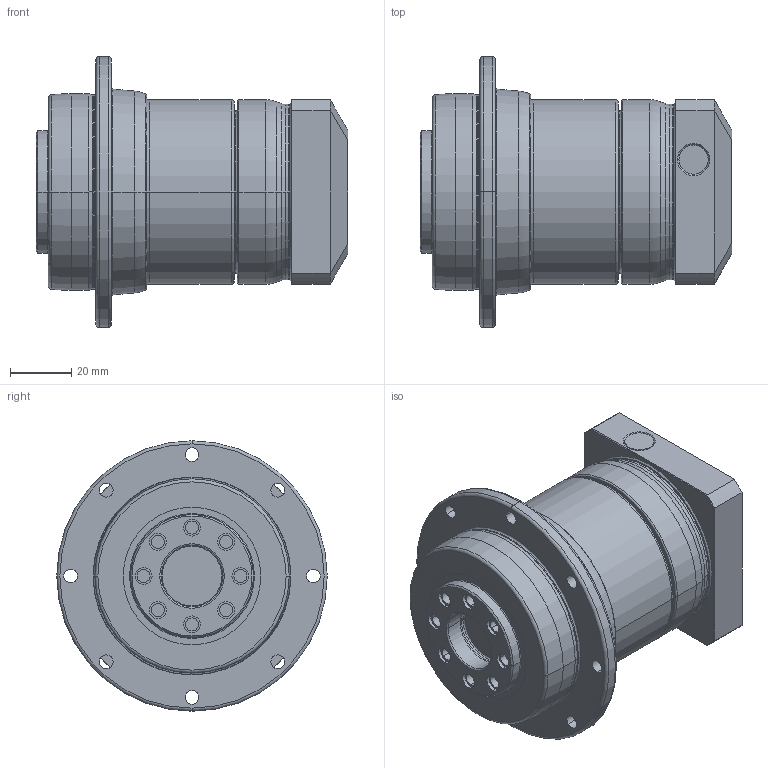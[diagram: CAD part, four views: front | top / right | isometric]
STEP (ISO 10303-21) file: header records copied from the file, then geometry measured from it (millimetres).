
FILE_DESCRIPTION((''),'2;1');
FILE_NAME('PD064_2ST_11-P0411200101_ASM','2016-06-03T',('d01943'),(''),'PRO/ENGINEER BY PARAMETRIC TECHNOLOGY CORPORATION, 2008410','PRO/ENGINEER BY PARAMETRIC TECHNOLOGY CORPORATION, 2008410','');
FILE_SCHEMA(('CONFIG_CONTROL_DESIGN'));
Length unit declared in the file: millimetre
Products named in the file (8): P1355200001; P0367200001; P0275200001; P1324200101; P0411200101; P0503200005; P0941201001; PD064_2ST_11-P0411200101_ASM
Assembly tree (7 placements, depth 2):
  PD064_2ST_11-P0411200101_ASM
    P1355200001
    P0367200001
    P0275200001
    P1324200101
    P0411200101
    P0503200005
    P0941201001
Bounding box: 101.5 x 88 x 88 mm (x, y, z)
Volume: 292496.8 mm3; surface area: 68910.6 mm2
Topology: 7 solids, 7 shells, 383 faces, 869 edges, 514 vertices
Faces by surface type: cylinder 133, cone 90, torus 80, plane 66, bspline 14
Entity records: 15315 total; most frequent: CARTESIAN_POINT 6404, DIRECTION 2013, ORIENTED_EDGE 1702, AXIS2_PLACEMENT_3D 869, EDGE_CURVE 851, VERTEX_POINT 514, CIRCLE 485, EDGE_LOOP 455
